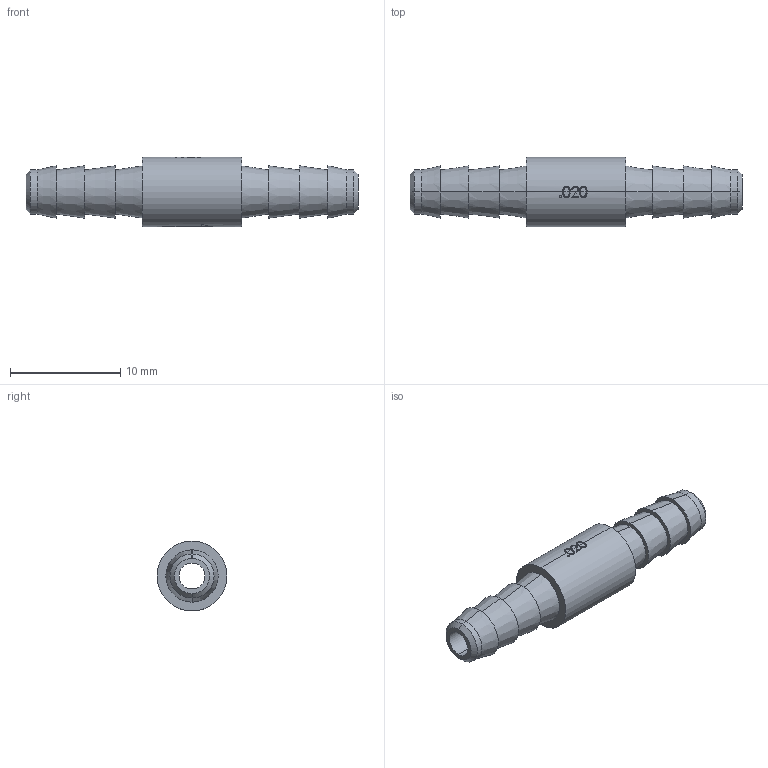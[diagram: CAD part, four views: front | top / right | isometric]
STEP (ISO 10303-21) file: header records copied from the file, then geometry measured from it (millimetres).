
FILE_DESCRIPTION(/* description */ ('SolidWorks IGES file using analytic representation for surfaces '),/* implementation_level */ '2;1');
FILE_NAME(/* name */ 'K:\Normteile INVENTOR\Air-Logic\Orifice restrictors\F-2815-201-B85.IGS.ipt.stp',/* time_stamp */ '2020-05-27T10:46:40+02:00',/* author */ ('cad'),/* organization */ (''),/* preprocessor_version */ 'ST-DEVELOPER v18',/* originating_system */ 'Autodesk Inventor 2020',/* authorisation */ '');
FILE_SCHEMA (('AUTOMOTIVE_DESIGN { 1 0 10303 214 3 1 1 }'));
Length unit declared in the file: millimetre
Products named in the file (1): F-2815-201-B85.IGS
Bounding box: 30.15 x 6.35 x 6.35 mm (x, y, z)
Surface area: 765 mm2 (no closed solid volume)
Topology: 0 solids, 91 shells, 91 faces, 441 edges, 441 vertices
Faces by surface type: bspline 32, cylinder 20, cone 20, plane 19
Entity records: 8657 total; most frequent: CARTESIAN_POINT 5300, DIRECTION 518, VERTEX_POINT 441, EDGE_CURVE 441, ORIENTED_EDGE 441, LINE 212, VECTOR 212, AXIS2_PLACEMENT_3D 153
